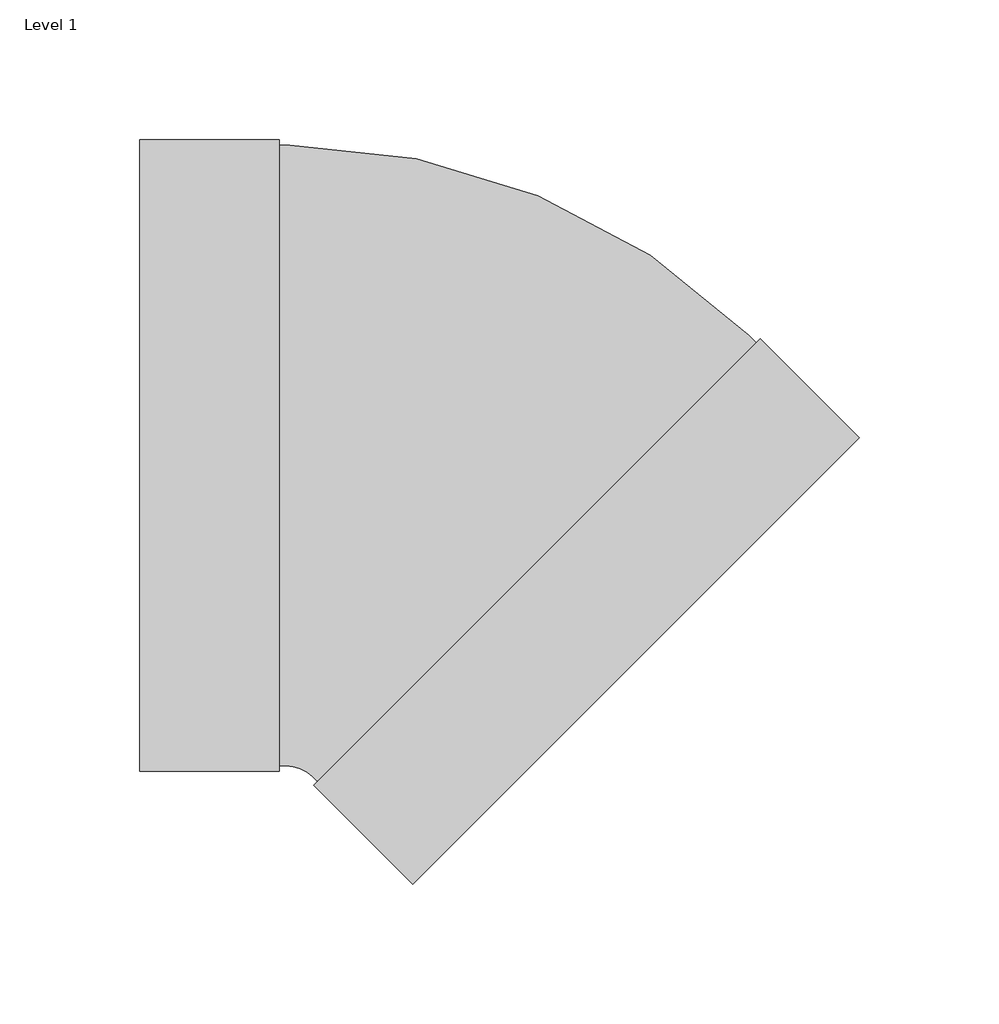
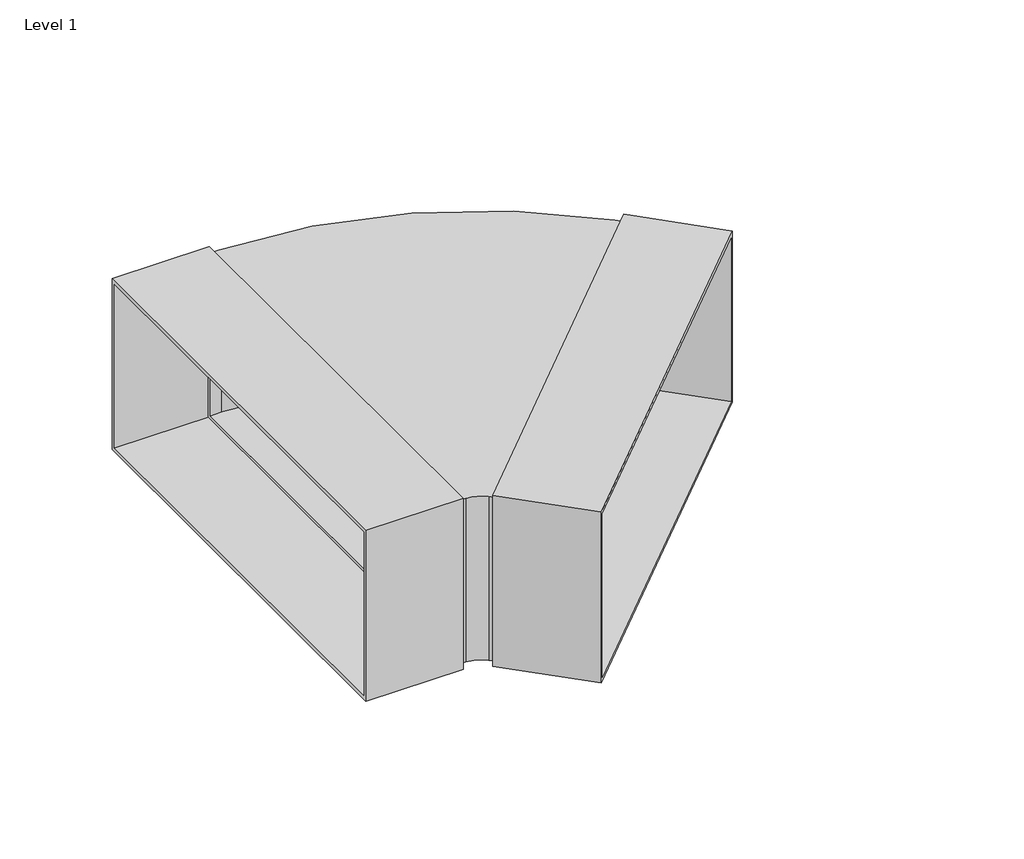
# One storey: 1 proxy.
"""IFC4 building model written with IfcOpenShell, lengths in millimetres."""

from ifc_helpers import new_model, si_unit, origin, place, context, project, spatial, transform, mapped, element, save
from components import specialty_equipment_16a7d548

model = new_model("IFC4")

# Units and contexts
model_context = context("Model", 3, world=origin())
ifc_project = project(units=[si_unit("LENGTHUNIT", "METRE", prefix="MILLI")], contexts=[model_context])

# Site, building, storey
site = spatial("IfcSite", under=ifc_project)
building = spatial("IfcBuilding", under=site)
storey = spatial("IfcBuildingStorey", under=building, Name="Level 1", Elevation=0.0)

# Proxy
placement = place(None, origin())
specialty_equipment_shape = specialty_equipment_16a7d548(model_context)
element("IfcBuildingElementProxy", 1, Name="10811450_D_DFK-BH45 : 28996394_D_10811450_DFK-BH45", ObjectType="10811450_D_DFK-BH45 : 28996394_D_10811450_DFK-BH45", at=placement, inside=storey, context=model_context, shape_type="MappedRepresentation", body=[
    mapped(specialty_equipment_shape, transform((0.0, 0.0, 0.0), x_axis=(1.0, 0.0, 0.0), y_axis=(0.0, 1.0, 0.0), z_axis=(0.0, 0.0, 1.0))),
])

save(model, "model.ifc")
